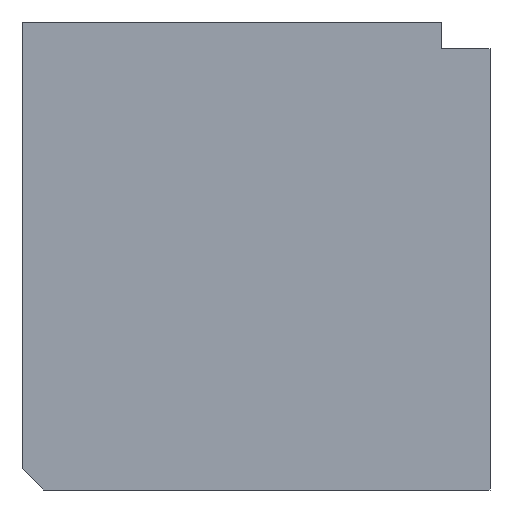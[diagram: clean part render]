
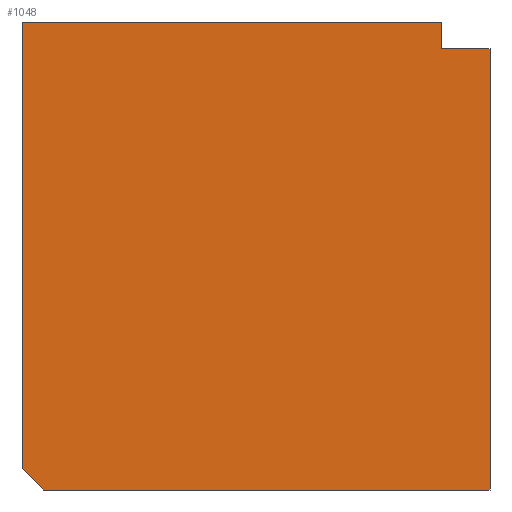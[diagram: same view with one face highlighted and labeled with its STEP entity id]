
A CAD part, left-side view. The second image highlights one B-rep face of the part: STEP entity #1048.
In plain terms, the highlighted planar face has unit normal (-1, 0, 0).
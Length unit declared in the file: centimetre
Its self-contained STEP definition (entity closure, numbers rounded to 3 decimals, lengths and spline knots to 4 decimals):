
#21 = EDGE_CURVE ( 'NONE', #118, #1215, #404, .T. ) ;
#30 = CARTESIAN_POINT ( 'NONE',  ( 0., 0., 943.0387 ) ) ;
#36 = EDGE_CURVE ( 'NONE', #1035, #118, #309, .T. ) ;
#40 = DIRECTION ( 'NONE',  ( 0., -1., 0. ) ) ;
#49 = VECTOR ( 'NONE', #97, 100. ) ;
#86 = DIRECTION ( 'NONE',  ( 0., -0.707, -0.707 ) ) ;
#91 = DIRECTION ( 'NONE',  ( 0., 0., -1. ) ) ;
#97 = DIRECTION ( 'NONE',  ( 0., 0., -1. ) ) ;
#118 = VERTEX_POINT ( 'NONE', #335 ) ;
#209 = VERTEX_POINT ( 'NONE', #524 ) ;
#229 = PLANE ( 'NONE',  #1119 ) ;
#268 = VERTEX_POINT ( 'NONE', #1339 ) ;
#309 = LINE ( 'NONE', #1177, #1008 ) ;
#320 = EDGE_CURVE ( 'NONE', #712, #1215, #828, .T. ) ;
#335 = CARTESIAN_POINT ( 'NONE',  ( 0., 953.768, 0. ) ) ;
#336 = DIRECTION ( 'NONE',  ( 0., 0., -1. ) ) ;
#355 = CARTESIAN_POINT ( 'NONE',  ( 0., 0., 1000. ) ) ;
#372 = ORIENTED_EDGE ( 'NONE', *, *, #36, .T. ) ;
#404 = LINE ( 'NONE', #729, #1103 ) ;
#446 = CARTESIAN_POINT ( 'NONE',  ( 0., 103.109, 1000. ) ) ;
#485 = CARTESIAN_POINT ( 'NONE',  ( 0., 0., 943.0387 ) ) ;
#511 = DIRECTION ( 'NONE',  ( 0., -1., 0. ) ) ;
#524 = CARTESIAN_POINT ( 'NONE',  ( 0., 103.109, 943.0387 ) ) ;
#548 = FACE_OUTER_BOUND ( 'NONE', #1298, .T. ) ;
#551 = LINE ( 'NONE', #991, #1184 ) ;
#557 = VECTOR ( 'NONE', #565, 100. ) ;
#563 = ORIENTED_EDGE ( 'NONE', *, *, #578, .F. ) ;
#565 = DIRECTION ( 'NONE',  ( 0., -1., 0. ) ) ;
#574 = VERTEX_POINT ( 'NONE', #446 ) ;
#578 = EDGE_CURVE ( 'NONE', #268, #574, #1203, .T. ) ;
#613 = LINE ( 'NONE', #30, #1386 ) ;
#640 = ORIENTED_EDGE ( 'NONE', *, *, #21, .T. ) ;
#712 = VERTEX_POINT ( 'NONE', #485 ) ;
#729 = CARTESIAN_POINT ( 'NONE',  ( 0., 1000., 0. ) ) ;
#828 = LINE ( 'NONE', #355, #1106 ) ;
#842 = EDGE_CURVE ( 'NONE', #209, #712, #613, .T. ) ;
#856 = ORIENTED_EDGE ( 'NONE', *, *, #1346, .F. ) ;
#862 = ORIENTED_EDGE ( 'NONE', *, *, #1340, .T. ) ;
#929 = DIRECTION ( 'NONE',  ( 0., 0., -1. ) ) ;
#989 = CARTESIAN_POINT ( 'NONE',  ( 0., 1000., 1000. ) ) ;
#991 = CARTESIAN_POINT ( 'NONE',  ( 0., 1000., 1000. ) ) ;
#1008 = VECTOR ( 'NONE', #86, 100. ) ;
#1011 = CARTESIAN_POINT ( 'NONE',  ( 0., 1000., 1000. ) ) ;
#1035 = VERTEX_POINT ( 'NONE', #1099 ) ;
#1048 = ADVANCED_FACE ( 'NONE', ( #548 ), #229, .F. ) ;
#1084 = CARTESIAN_POINT ( 'NONE',  ( 0., 103.109, 943.0387 ) ) ;
#1099 = CARTESIAN_POINT ( 'NONE',  ( 0., 1000., 46.232 ) ) ;
#1103 = VECTOR ( 'NONE', #40, 100. ) ;
#1106 = VECTOR ( 'NONE', #929, 100. ) ;
#1119 = AXIS2_PLACEMENT_3D ( 'NONE', #989, #1318, #336 ) ;
#1164 = ORIENTED_EDGE ( 'NONE', *, *, #320, .F. ) ;
#1177 = CARTESIAN_POINT ( 'NONE',  ( 0., 1000., 46.232 ) ) ;
#1184 = VECTOR ( 'NONE', #91, 100. ) ;
#1203 = LINE ( 'NONE', #1011, #557 ) ;
#1215 = VERTEX_POINT ( 'NONE', #1259 ) ;
#1259 = CARTESIAN_POINT ( 'NONE',  ( 0., 0., 0. ) ) ;
#1277 = ORIENTED_EDGE ( 'NONE', *, *, #842, .F. ) ;
#1296 = LINE ( 'NONE', #1084, #49 ) ;
#1298 = EDGE_LOOP ( 'NONE', ( #1164, #1277, #856, #563, #862, #372, #640 ) ) ;
#1318 = DIRECTION ( 'NONE',  ( 1., 0., 0. ) ) ;
#1339 = CARTESIAN_POINT ( 'NONE',  ( 0., 1000., 1000. ) ) ;
#1340 = EDGE_CURVE ( 'NONE', #268, #1035, #551, .T. ) ;
#1346 = EDGE_CURVE ( 'NONE', #574, #209, #1296, .T. ) ;
#1386 = VECTOR ( 'NONE', #511, 100. ) ;
